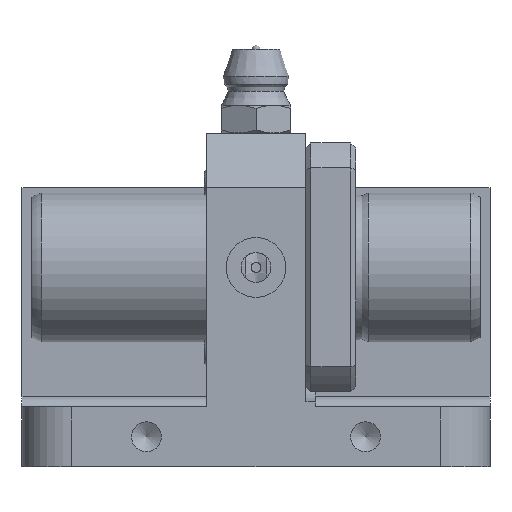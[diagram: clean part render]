
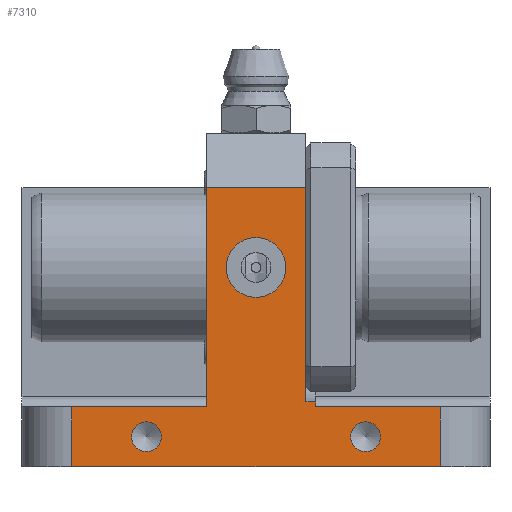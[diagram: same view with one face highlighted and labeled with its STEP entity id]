
A CAD part, front view. The second image highlights one B-rep face of the part: STEP entity #7310.
In plain terms, the highlighted planar face has unit normal (0, -1, 0).
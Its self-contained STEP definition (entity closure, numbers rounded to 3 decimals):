
#7164=CARTESIAN_POINT('',(42.0,-36.,6.));
#7165=VERTEX_POINT('',#7164);
#7173=CARTESIAN_POINT('',(42.0,-36.,0.0));
#7174=VERTEX_POINT('',#7173);
#7175=CARTESIAN_POINT('',(42.0,-36.,6.));
#7176=DIRECTION('',(0.0,0.0,-1.0));
#7177=VECTOR('',#7176,6.);
#7178=LINE('',#7175,#7177);
#7179=EDGE_CURVE('',#7165,#7174,#7178,.T.);
#7199=CARTESIAN_POINT('',(47.0,-36.,0.0));
#7200=DIRECTION('',(0.0,-1.0,0.0));
#7201=DIRECTION('',(0.0,0.0,-1.0));
#7202=AXIS2_PLACEMENT_3D('',#7199,#7200,#7201);
#7203=PLANE('',#7202);
#7204=ORIENTED_EDGE('',*,*,#7179,.F.);
#7205=CARTESIAN_POINT('',(29.5,-36.,6.));
#7206=VERTEX_POINT('',#7205);
#7207=CARTESIAN_POINT('',(42.0,-36.,6.));
#7208=DIRECTION('',(-1.0,0.0,0.0));
#7209=VECTOR('',#7208,12.5);
#7210=LINE('',#7207,#7209);
#7211=EDGE_CURVE('',#7165,#7206,#7210,.T.);
#7212=ORIENTED_EDGE('',*,*,#7211,.T.);
#7213=CARTESIAN_POINT('',(29.5,-36.,6.5));
#7214=VERTEX_POINT('',#7213);
#7215=CARTESIAN_POINT('',(29.5,-36.,6.));
#7216=DIRECTION('',(0.0,0.0,1.0));
#7217=VECTOR('',#7216,0.5);
#7218=LINE('',#7215,#7217);
#7219=EDGE_CURVE('',#7206,#7214,#7218,.T.);
#7220=ORIENTED_EDGE('',*,*,#7219,.T.);
#7221=CARTESIAN_POINT('',(28.5,-36.,6.5));
#7222=VERTEX_POINT('',#7221);
#7223=CARTESIAN_POINT('',(28.5,-36.,6.5));
#7224=DIRECTION('',(1.0,0.0,0.0));
#7225=VECTOR('',#7224,1.);
#7226=LINE('',#7223,#7225);
#7227=EDGE_CURVE('',#7222,#7214,#7226,.T.);
#7228=ORIENTED_EDGE('',*,*,#7227,.F.);
#7229=CARTESIAN_POINT('',(28.5,-36.,28.));
#7230=VERTEX_POINT('',#7229);
#7231=CARTESIAN_POINT('',(28.5,-36.,6.5));
#7232=DIRECTION('',(0.0,0.0,1.0));
#7233=VECTOR('',#7232,21.5);
#7234=LINE('',#7231,#7233);
#7235=EDGE_CURVE('',#7222,#7230,#7234,.T.);
#7236=ORIENTED_EDGE('',*,*,#7235,.T.);
#7237=CARTESIAN_POINT('',(18.5,-36.0,28.));
#7238=VERTEX_POINT('',#7237);
#7239=CARTESIAN_POINT('',(18.5,-36.0,28.));
#7240=DIRECTION('',(1.0,0.0,0.0));
#7241=VECTOR('',#7240,10.);
#7242=LINE('',#7239,#7241);
#7243=EDGE_CURVE('',#7238,#7230,#7242,.T.);
#7244=ORIENTED_EDGE('',*,*,#7243,.F.);
#7245=CARTESIAN_POINT('',(18.5,-36.,6.));
#7246=VERTEX_POINT('',#7245);
#7247=CARTESIAN_POINT('',(18.5,-36.0,28.));
#7248=DIRECTION('',(0.0,0.0,-1.0));
#7249=VECTOR('',#7248,22.0);
#7250=LINE('',#7247,#7249);
#7251=EDGE_CURVE('',#7238,#7246,#7250,.T.);
#7252=ORIENTED_EDGE('',*,*,#7251,.T.);
#7253=CARTESIAN_POINT('',(5.0,-36.,6.));
#7254=VERTEX_POINT('',#7253);
#7255=CARTESIAN_POINT('',(18.5,-36.,6.));
#7256=DIRECTION('',(-1.0,0.0,0.0));
#7257=VECTOR('',#7256,13.5);
#7258=LINE('',#7255,#7257);
#7259=EDGE_CURVE('',#7246,#7254,#7258,.T.);
#7260=ORIENTED_EDGE('',*,*,#7259,.T.);
#7261=CARTESIAN_POINT('',(5.,-36.0,0.0));
#7262=VERTEX_POINT('',#7261);
#7263=CARTESIAN_POINT('',(5.,-36.0,0.0));
#7264=DIRECTION('',(0.0,0.0,1.0));
#7265=VECTOR('',#7264,6.);
#7266=LINE('',#7263,#7265);
#7267=EDGE_CURVE('',#7262,#7254,#7266,.T.);
#7268=ORIENTED_EDGE('',*,*,#7267,.F.);
#7269=CARTESIAN_POINT('',(5.,-36.0,0.0));
#7270=DIRECTION('',(1.0,0.0,0.0));
#7271=VECTOR('',#7270,37.0);
#7272=LINE('',#7269,#7271);
#7273=EDGE_CURVE('',#7262,#7174,#7272,.T.);
#7274=ORIENTED_EDGE('',*,*,#7273,.T.);
#7275=EDGE_LOOP('',(#7204,#7212,#7220,#7228,#7236,#7244,#7252,#7260,#7268,#7274));
#7276=FACE_OUTER_BOUND('',#7275,.T.);
#7277=CARTESIAN_POINT('',(36.,-36.,3.));
#7278=VERTEX_POINT('',#7277);
#7279=CARTESIAN_POINT('',(34.5,-36.,3.));
#7280=DIRECTION('',(0.0,1.0,0.0));
#7281=DIRECTION('',(1.0,0.0,0.0));
#7282=AXIS2_PLACEMENT_3D('',#7279,#7280,#7281);
#7283=CIRCLE('',#7282,1.5);
#7284=EDGE_CURVE('',#7278,#7278,#7283,.T.);
#7285=ORIENTED_EDGE('',*,*,#7284,.T.);
#7286=EDGE_LOOP('',(#7285));
#7287=FACE_BOUND('',#7286,.T.);
#7288=CARTESIAN_POINT('',(14.,-36.0,3.));
#7289=VERTEX_POINT('',#7288);
#7290=CARTESIAN_POINT('',(12.5,-36.0,3.));
#7291=DIRECTION('',(0.0,1.0,0.0));
#7292=DIRECTION('',(1.0,0.0,0.0));
#7293=AXIS2_PLACEMENT_3D('',#7290,#7291,#7292);
#7294=CIRCLE('',#7293,1.5);
#7295=EDGE_CURVE('',#7289,#7289,#7294,.T.);
#7296=ORIENTED_EDGE('',*,*,#7295,.T.);
#7297=EDGE_LOOP('',(#7296));
#7298=FACE_BOUND('',#7297,.T.);
#7299=CARTESIAN_POINT('',(26.5,-36.,20.));
#7300=VERTEX_POINT('',#7299);
#7301=CARTESIAN_POINT('',(23.5,-36.,20.));
#7302=DIRECTION('',(0.0,1.0,0.0));
#7303=DIRECTION('',(1.0,0.0,0.0));
#7304=AXIS2_PLACEMENT_3D('',#7301,#7302,#7303);
#7305=CIRCLE('',#7304,3.);
#7306=EDGE_CURVE('',#7300,#7300,#7305,.T.);
#7307=ORIENTED_EDGE('',*,*,#7306,.T.);
#7308=EDGE_LOOP('',(#7307));
#7309=FACE_BOUND('',#7308,.T.);
#7310=ADVANCED_FACE('',(#7276,#7287,#7298,#7309),#7203,.T.);
